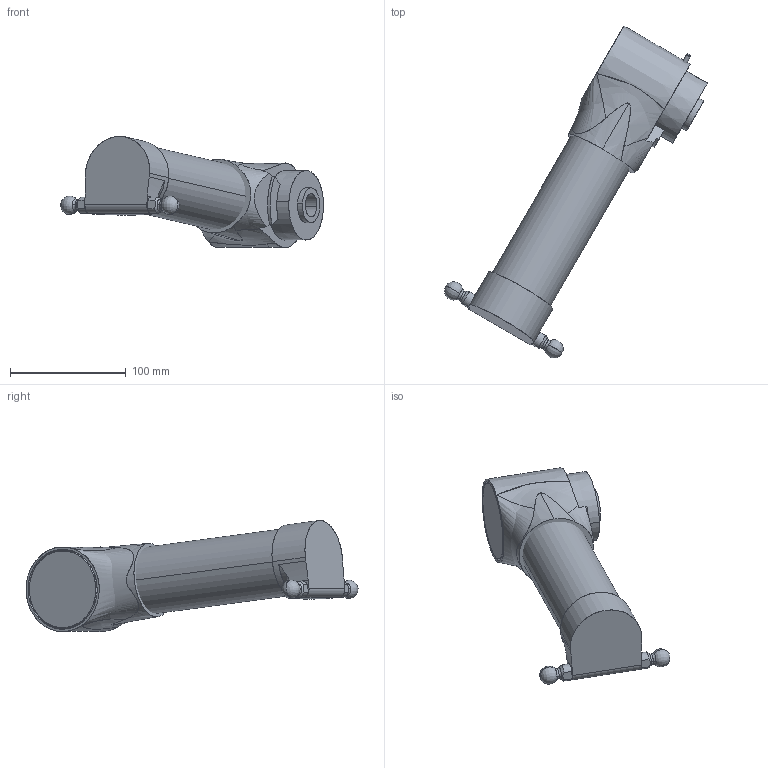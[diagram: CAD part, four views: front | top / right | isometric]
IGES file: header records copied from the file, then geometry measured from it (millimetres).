
Start section: SolidWorks IGES file using analytic representation for surfaces
Global section: file name: C:\Users\SELUHAA\Desktop\Work items\545792\IGES\IRB360_X-800-STD-4D_rev03_IGES_J\IRB360_X-800-STD-4D_rev03_UA2_CAD.IGS; native system: SolidWorks 2022; preprocessor: SolidWorks 2022; author: SELUHAA; date: 231128.125652; units: millimetre
Bounding box: 227.01 x 286.51 x 95.92 mm (x, y, z)
Surface area: 109389.6 mm2 (no closed solid volume)
Topology: 0 solids, 0 shells, 103 faces, 2107 edges, 2101 vertices
Faces by surface type: revolution 58, bspline 45
